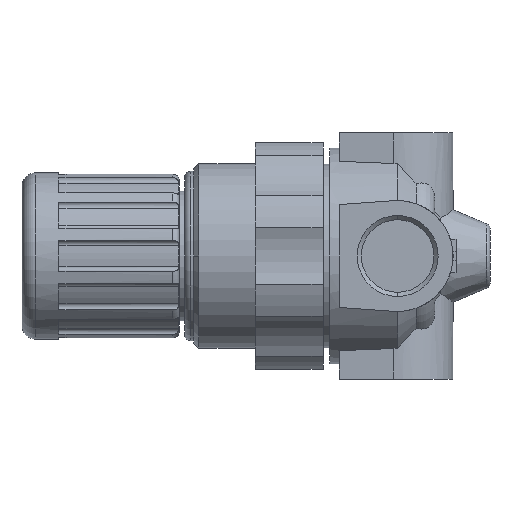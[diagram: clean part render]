
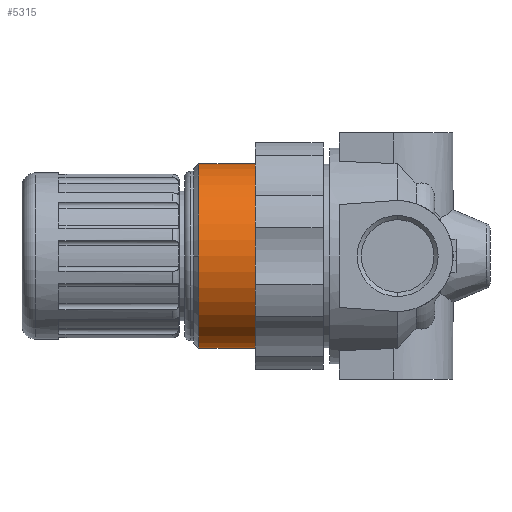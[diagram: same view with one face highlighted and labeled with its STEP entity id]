
A CAD part, left-side view. The second image highlights one B-rep face of the part: STEP entity #5315.
In plain terms, the highlighted cylindrical face has radius 15 mm (diameter 30 mm), a partial arc.
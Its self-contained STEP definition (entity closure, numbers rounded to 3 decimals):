
#1739=CARTESIAN_POINT('',(0.,47.288,0.));
#1740=DIRECTION('',(0.,1.,0.));
#1741=DIRECTION('',(-1.,0.,0.));
#1742=AXIS2_PLACEMENT_3D('',#1739,#1740,#1741);
#1744=CARTESIAN_POINT('',(0.,38.1,0.));
#1745=DIRECTION('',(0.,1.,0.));
#1746=DIRECTION('',(0.,0.,-1.));
#1747=AXIS2_PLACEMENT_3D('',#1744,#1745,#1746);
#1749=CARTESIAN_POINT('',(0.,47.288,0.));
#1750=DIRECTION('',(0.,1.,0.));
#1751=DIRECTION('',(0.,0.,-1.));
#1752=AXIS2_PLACEMENT_3D('',#1749,#1750,#1751);
#1772=DIRECTION('',(0.,1.,0.));
#1773=VECTOR('',#1772,9.188);
#1774=CARTESIAN_POINT('',(0.,38.1,-15.));
#1775=LINE('',#1774,#1773);
#1781=DIRECTION('',(0.,1.,0.));
#1782=VECTOR('',#1781,9.188);
#1783=CARTESIAN_POINT('',(0.,38.1,15.));
#1784=LINE('',#1783,#1782);
#3241=CARTESIAN_POINT('',(0.,38.1,-15.));
#3242=CARTESIAN_POINT('',(0.,38.1,15.));
#3243=VERTEX_POINT('',#3241);
#3244=VERTEX_POINT('',#3242);
#3667=CARTESIAN_POINT('',(-15.,47.288,0.));
#3668=CARTESIAN_POINT('',(0.,47.288,15.));
#3669=VERTEX_POINT('',#3667);
#3670=VERTEX_POINT('',#3668);
#3671=CARTESIAN_POINT('',(0.,47.288,-15.));
#3672=VERTEX_POINT('',#3671);
#5299=CARTESIAN_POINT('',(0.,-3.8,0.));
#5300=DIRECTION('',(0.,1.,0.));
#5301=DIRECTION('',(0.,0.,-1.));
#5302=AXIS2_PLACEMENT_3D('',#5299,#5300,#5301);
#5303=CYLINDRICAL_SURFACE('',#5302,15.);
#5305=ORIENTED_EDGE('',*,*,#5304,.T.);
#5307=ORIENTED_EDGE('',*,*,#5306,.F.);
#5308=ORIENTED_EDGE('',*,*,#5292,.F.);
#5310=ORIENTED_EDGE('',*,*,#5309,.T.);
#5312=ORIENTED_EDGE('',*,*,#5311,.T.);
#5313=EDGE_LOOP('',(#5305,#5307,#5308,#5310,#5312));
#5314=FACE_OUTER_BOUND('',#5313,.F.);
#5315=ADVANCED_FACE('',(#5314),#5303,.T.);
#1743=CIRCLE('',#1742,15.);
#1748=CIRCLE('',#1747,15.);
#1753=CIRCLE('',#1752,15.);
#5292=EDGE_CURVE('',#3243,#3244,#1748,.T.);
#5304=EDGE_CURVE('',#3669,#3670,#1743,.T.);
#5306=EDGE_CURVE('',#3244,#3670,#1784,.T.);
#5309=EDGE_CURVE('',#3243,#3672,#1775,.T.);
#5311=EDGE_CURVE('',#3672,#3669,#1753,.T.);
